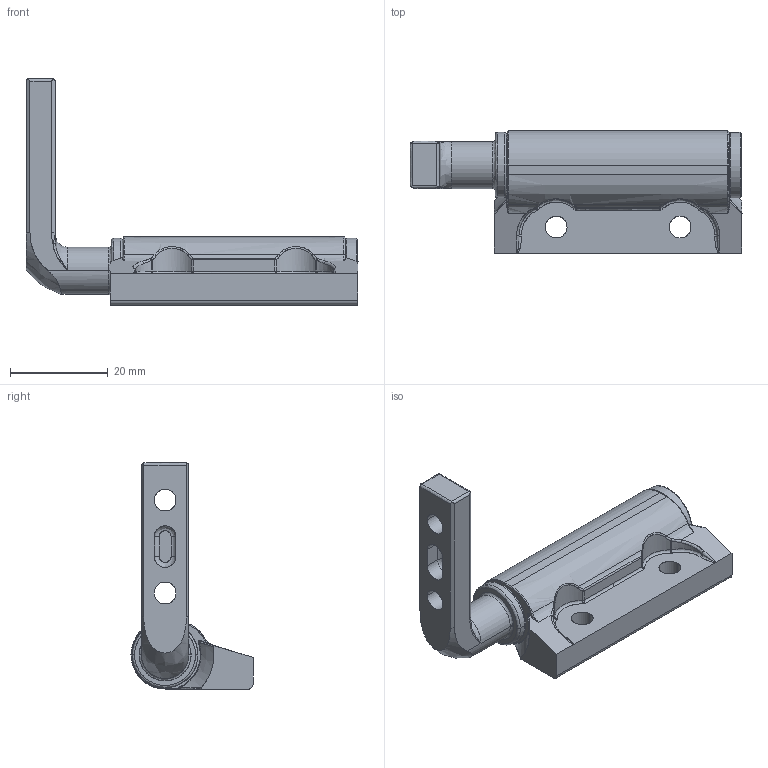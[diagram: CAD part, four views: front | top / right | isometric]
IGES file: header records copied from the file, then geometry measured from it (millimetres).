
Start section: SolidWorks IGES file using analytic representation for surfaces
Global section: file name: G:\RELEASED\FINALS\11-XXX PHK Hinge\PHK 90 Left.IGS; native system: SolidWorks 2016; preprocessor: SolidWorks 2016; author: hmanderson; date: 160323.092246; units: inch
Bounding box: 68.07 x 25.03 x 46.37 mm (x, y, z)
Surface area: 9419.2 mm2 (no closed solid volume)
Topology: 0 solids, 0 shells, 612 faces, 5271 edges, 5249 vertices
Faces by surface type: bspline 385, revolution 227
